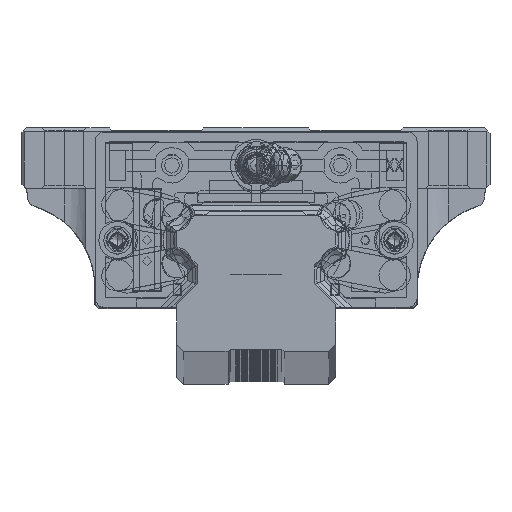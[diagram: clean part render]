
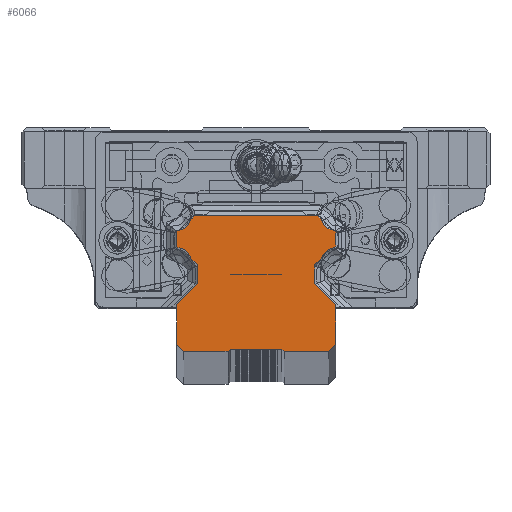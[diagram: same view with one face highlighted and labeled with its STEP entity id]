
A CAD part, top view. The second image highlights one B-rep face of the part: STEP entity #6066.
In plain terms, the highlighted planar face has unit normal (0, 0, 1).
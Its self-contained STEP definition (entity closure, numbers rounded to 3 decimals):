
#13=DIRECTION('',(0.,-1.,0.));
#14=VECTOR('',#13,4.);
#15=CARTESIAN_POINT('',(-12.5,-5.5,500.));
#16=LINE('',#15,#14);
#25=DIRECTION('',(0.,-1.,0.));
#26=VECTOR('',#25,8.5);
#27=CARTESIAN_POINT('',(-17.,-14.,500.));
#28=LINE('',#27,#26);
#37=DIRECTION('',(1.,0.,0.));
#38=VECTOR('',#37,9.5);
#39=CARTESIAN_POINT('',(-15.5,-24.,500.));
#40=LINE('',#39,#38);
#1537=DIRECTION('',(0.,-1.,0.));
#1538=VECTOR('',#1537,2.452);
#1539=CARTESIAN_POINT('',(-17.,1.226,500.));
#1540=LINE('',#1539,#1538);
#1673=DIRECTION('',(1.,0.,0.));
#1674=VECTOR('',#1673,9.5);
#1675=CARTESIAN_POINT('',(6.,-24.,500.));
#1676=LINE('',#1675,#1674);
#1685=DIRECTION('',(0.,1.,0.));
#1686=VECTOR('',#1685,8.5);
#1687=CARTESIAN_POINT('',(17.,-22.5,500.));
#1688=LINE('',#1687,#1686);
#1697=DIRECTION('',(0.,1.,0.));
#1698=VECTOR('',#1697,4.);
#1699=CARTESIAN_POINT('',(12.5,-9.5,500.));
#1700=LINE('',#1699,#1698);
#1717=DIRECTION('',(0.,1.,0.));
#1718=VECTOR('',#1717,2.452);
#1719=CARTESIAN_POINT('',(17.,-1.226,500.));
#1720=LINE('',#1719,#1718);
#1733=CARTESIAN_POINT('',(-17.018,-5.018,500.));
#1734=DIRECTION('',(0.,0.,1.));
#1735=DIRECTION('',(0.951,0.31,0.));
#1736=AXIS2_PLACEMENT_3D('',#1733,#1734,#1735);
#1738=CARTESIAN_POINT('',(-16.35,-1.226,500.));
#1739=DIRECTION('',(0.,0.,-1.));
#1740=DIRECTION('',(-0.173,-0.985,0.));
#1741=AXIS2_PLACEMENT_3D('',#1738,#1739,#1740);
#1743=CARTESIAN_POINT('',(-16.35,1.226,500.));
#1744=DIRECTION('',(0.,0.,-1.));
#1745=DIRECTION('',(-1.,0.,0.));
#1746=AXIS2_PLACEMENT_3D('',#1743,#1744,#1745);
#1748=CARTESIAN_POINT('',(-17.018,5.018,500.));
#1749=DIRECTION('',(0.,0.,1.));
#1750=DIRECTION('',(0.173,-0.985,0.));
#1751=AXIS2_PLACEMENT_3D('',#1748,#1749,#1750);
#1753=DIRECTION('',(0.707,0.707,0.));
#1754=VECTOR('',#1753,1.158);
#1755=CARTESIAN_POINT('',(-13.929,4.181,500.));
#1756=LINE('',#1755,#1754);
#1757=DIRECTION('',(1.,0.,0.));
#1758=VECTOR('',#1757,26.22);
#1759=CARTESIAN_POINT('',(-13.11,5.,500.));
#1760=LINE('',#1759,#1758);
#1761=DIRECTION('',(0.707,-0.707,0.));
#1762=VECTOR('',#1761,1.158);
#1763=CARTESIAN_POINT('',(13.11,5.,500.));
#1764=LINE('',#1763,#1762);
#1765=CARTESIAN_POINT('',(17.018,5.018,500.));
#1766=DIRECTION('',(0.,0.,1.));
#1767=DIRECTION('',(-0.965,-0.261,0.));
#1768=AXIS2_PLACEMENT_3D('',#1765,#1766,#1767);
#1770=CARTESIAN_POINT('',(16.35,1.226,500.));
#1771=DIRECTION('',(0.,0.,-1.));
#1772=DIRECTION('',(0.173,0.985,0.));
#1773=AXIS2_PLACEMENT_3D('',#1770,#1771,#1772);
#1775=CARTESIAN_POINT('',(16.35,-1.226,500.));
#1776=DIRECTION('',(0.,0.,-1.));
#1777=DIRECTION('',(1.,0.,0.));
#1778=AXIS2_PLACEMENT_3D('',#1775,#1776,#1777);
#1780=CARTESIAN_POINT('',(17.018,-5.018,500.));
#1781=DIRECTION('',(0.,0.,1.));
#1782=DIRECTION('',(-0.173,0.985,0.));
#1783=AXIS2_PLACEMENT_3D('',#1780,#1781,#1782);
#1785=DIRECTION('',(-0.707,-0.707,0.));
#1786=VECTOR('',#1785,2.087);
#1787=CARTESIAN_POINT('',(13.976,-4.024,500.));
#1788=LINE('',#1787,#1786);
#1789=DIRECTION('',(0.707,-0.707,0.));
#1790=VECTOR('',#1789,6.364);
#1791=CARTESIAN_POINT('',(12.5,-9.5,500.));
#1792=LINE('',#1791,#1790);
#1793=DIRECTION('',(-0.707,-0.707,0.));
#1794=VECTOR('',#1793,2.121);
#1795=CARTESIAN_POINT('',(17.,-22.5,500.));
#1796=LINE('',#1795,#1794);
#1797=DIRECTION('',(-0.707,0.707,0.));
#1798=VECTOR('',#1797,0.707);
#1799=CARTESIAN_POINT('',(6.,-24.,500.));
#1800=LINE('',#1799,#1798);
#1801=DIRECTION('',(-1.,0.,0.));
#1802=VECTOR('',#1801,11.);
#1803=CARTESIAN_POINT('',(5.5,-23.5,500.));
#1804=LINE('',#1803,#1802);
#1805=DIRECTION('',(-0.707,-0.707,0.));
#1806=VECTOR('',#1805,0.707);
#1807=CARTESIAN_POINT('',(-5.5,-23.5,500.));
#1808=LINE('',#1807,#1806);
#1809=DIRECTION('',(-0.707,0.707,0.));
#1810=VECTOR('',#1809,2.121);
#1811=CARTESIAN_POINT('',(-15.5,-24.,500.));
#1812=LINE('',#1811,#1810);
#1813=DIRECTION('',(0.707,0.707,0.));
#1814=VECTOR('',#1813,6.364);
#1815=CARTESIAN_POINT('',(-17.,-14.,500.));
#1816=LINE('',#1815,#1814);
#1817=DIRECTION('',(-0.707,0.707,0.));
#1818=VECTOR('',#1817,2.087);
#1819=CARTESIAN_POINT('',(-12.5,-5.5,500.));
#1820=LINE('',#1819,#1818);
#3153=CARTESIAN_POINT('',(-13.976,-4.024,500.));
#3154=CARTESIAN_POINT('',(-16.463,-1.866,500.));
#3155=VERTEX_POINT('',#3153);
#3156=VERTEX_POINT('',#3154);
#3157=CARTESIAN_POINT('',(-17.,-1.226,500.));
#3158=VERTEX_POINT('',#3157);
#3159=CARTESIAN_POINT('',(-17.,1.226,500.));
#3160=VERTEX_POINT('',#3159);
#3161=CARTESIAN_POINT('',(-16.463,1.866,500.));
#3162=VERTEX_POINT('',#3161);
#3163=CARTESIAN_POINT('',(-13.929,4.181,500.));
#3164=VERTEX_POINT('',#3163);
#3165=CARTESIAN_POINT('',(-13.11,5.,500.));
#3166=VERTEX_POINT('',#3165);
#3167=CARTESIAN_POINT('',(13.11,5.,500.));
#3168=VERTEX_POINT('',#3167);
#3221=CARTESIAN_POINT('',(13.929,4.181,500.));
#3222=VERTEX_POINT('',#3221);
#3223=CARTESIAN_POINT('',(16.463,1.866,500.));
#3224=VERTEX_POINT('',#3223);
#3225=CARTESIAN_POINT('',(17.,1.226,500.));
#3226=VERTEX_POINT('',#3225);
#3227=CARTESIAN_POINT('',(17.,-1.226,500.));
#3228=VERTEX_POINT('',#3227);
#3229=CARTESIAN_POINT('',(16.463,-1.866,500.));
#3230=VERTEX_POINT('',#3229);
#3231=CARTESIAN_POINT('',(13.976,-4.024,500.));
#3232=VERTEX_POINT('',#3231);
#3233=CARTESIAN_POINT('',(12.5,-5.5,500.));
#3234=VERTEX_POINT('',#3233);
#3235=CARTESIAN_POINT('',(12.5,-9.5,500.));
#3236=VERTEX_POINT('',#3235);
#3237=CARTESIAN_POINT('',(17.,-14.,500.));
#3238=VERTEX_POINT('',#3237);
#3239=CARTESIAN_POINT('',(17.,-22.5,500.));
#3240=VERTEX_POINT('',#3239);
#3241=CARTESIAN_POINT('',(15.5,-24.,500.));
#3242=VERTEX_POINT('',#3241);
#3243=CARTESIAN_POINT('',(6.,-24.,500.));
#3244=VERTEX_POINT('',#3243);
#3245=CARTESIAN_POINT('',(5.5,-23.5,500.));
#3246=VERTEX_POINT('',#3245);
#3247=CARTESIAN_POINT('',(-5.5,-23.5,500.));
#3248=VERTEX_POINT('',#3247);
#3301=CARTESIAN_POINT('',(-6.,-24.,500.));
#3302=VERTEX_POINT('',#3301);
#3303=CARTESIAN_POINT('',(-15.5,-24.,500.));
#3304=VERTEX_POINT('',#3303);
#3305=CARTESIAN_POINT('',(-17.,-22.5,500.));
#3306=VERTEX_POINT('',#3305);
#3307=CARTESIAN_POINT('',(-17.,-14.,500.));
#3308=VERTEX_POINT('',#3307);
#3309=CARTESIAN_POINT('',(-12.5,-9.5,500.));
#3310=VERTEX_POINT('',#3309);
#3311=CARTESIAN_POINT('',(-12.5,-5.5,500.));
#3312=VERTEX_POINT('',#3311);
#6031=CARTESIAN_POINT('',(0.,0.,500.));
#6032=DIRECTION('',(0.,0.,1.));
#6033=DIRECTION('',(1.,0.,0.));
#6034=AXIS2_PLACEMENT_3D('',#6031,#6032,#6033);
#6035=PLANE('',#6034);
#6036=ORIENTED_EDGE('',*,*,#4076,.T.);
#6037=ORIENTED_EDGE('',*,*,#5796,.T.);
#6038=ORIENTED_EDGE('',*,*,#5782,.F.);
#6039=ORIENTED_EDGE('',*,*,#5767,.T.);
#6040=ORIENTED_EDGE('',*,*,#5752,.T.);
#6041=ORIENTED_EDGE('',*,*,#5737,.T.);
#6042=ORIENTED_EDGE('',*,*,#4571,.T.);
#6043=ORIENTED_EDGE('',*,*,#6026,.T.);
#6044=ORIENTED_EDGE('',*,*,#6013,.T.);
#6045=ORIENTED_EDGE('',*,*,#5999,.T.);
#6046=ORIENTED_EDGE('',*,*,#5985,.F.);
#6047=ORIENTED_EDGE('',*,*,#5971,.T.);
#6048=ORIENTED_EDGE('',*,*,#5957,.T.);
#6049=ORIENTED_EDGE('',*,*,#5943,.T.);
#6050=ORIENTED_EDGE('',*,*,#5929,.F.);
#6051=ORIENTED_EDGE('',*,*,#5915,.T.);
#6052=ORIENTED_EDGE('',*,*,#5901,.F.);
#6053=ORIENTED_EDGE('',*,*,#5887,.T.);
#6054=ORIENTED_EDGE('',*,*,#5873,.F.);
#6055=ORIENTED_EDGE('',*,*,#5859,.T.);
#6056=ORIENTED_EDGE('',*,*,#4196,.T.);
#6057=ORIENTED_EDGE('',*,*,#4181,.T.);
#6058=ORIENTED_EDGE('',*,*,#4166,.F.);
#6059=ORIENTED_EDGE('',*,*,#4151,.T.);
#6060=ORIENTED_EDGE('',*,*,#4136,.F.);
#6061=ORIENTED_EDGE('',*,*,#4121,.T.);
#6062=ORIENTED_EDGE('',*,*,#4106,.F.);
#6063=ORIENTED_EDGE('',*,*,#4091,.T.);
#6064=EDGE_LOOP('',(#6036,#6037,#6038,#6039,#6040,#6041,#6042,#6043,#6044,#6045,
#6046,#6047,#6048,#6049,#6050,#6051,#6052,#6053,#6054,#6055,#6056,#6057,#6058,
#6059,#6060,#6061,#6062,#6063));
#6065=FACE_OUTER_BOUND('',#6064,.F.);
#6066=ADVANCED_FACE('',(#6065),#6035,.T.);
#1737=CIRCLE('',#1736,3.2);
#1742=CIRCLE('',#1741,0.65);
#1747=CIRCLE('',#1746,0.65);
#1752=CIRCLE('',#1751,3.2);
#1769=CIRCLE('',#1768,3.2);
#1774=CIRCLE('',#1773,0.65);
#1779=CIRCLE('',#1778,0.65);
#1784=CIRCLE('',#1783,3.2);
#4076=EDGE_CURVE('',#3155,#3156,#1737,.T.);
#4091=EDGE_CURVE('',#3312,#3155,#1820,.T.);
#4106=EDGE_CURVE('',#3312,#3310,#16,.T.);
#4121=EDGE_CURVE('',#3308,#3310,#1816,.T.);
#4136=EDGE_CURVE('',#3308,#3306,#28,.T.);
#4151=EDGE_CURVE('',#3304,#3306,#1812,.T.);
#4166=EDGE_CURVE('',#3304,#3302,#40,.T.);
#4181=EDGE_CURVE('',#3248,#3302,#1808,.T.);
#4196=EDGE_CURVE('',#3246,#3248,#1804,.T.);
#4571=EDGE_CURVE('',#3166,#3168,#1760,.T.);
#5737=EDGE_CURVE('',#3164,#3166,#1756,.T.);
#5752=EDGE_CURVE('',#3162,#3164,#1752,.T.);
#5767=EDGE_CURVE('',#3160,#3162,#1747,.T.);
#5782=EDGE_CURVE('',#3160,#3158,#1540,.T.);
#5796=EDGE_CURVE('',#3156,#3158,#1742,.T.);
#5859=EDGE_CURVE('',#3244,#3246,#1800,.T.);
#5873=EDGE_CURVE('',#3244,#3242,#1676,.T.);
#5887=EDGE_CURVE('',#3240,#3242,#1796,.T.);
#5901=EDGE_CURVE('',#3240,#3238,#1688,.T.);
#5915=EDGE_CURVE('',#3236,#3238,#1792,.T.);
#5929=EDGE_CURVE('',#3236,#3234,#1700,.T.);
#5943=EDGE_CURVE('',#3232,#3234,#1788,.T.);
#5957=EDGE_CURVE('',#3230,#3232,#1784,.T.);
#5971=EDGE_CURVE('',#3228,#3230,#1779,.T.);
#5985=EDGE_CURVE('',#3228,#3226,#1720,.T.);
#5999=EDGE_CURVE('',#3224,#3226,#1774,.T.);
#6013=EDGE_CURVE('',#3222,#3224,#1769,.T.);
#6026=EDGE_CURVE('',#3168,#3222,#1764,.T.);
